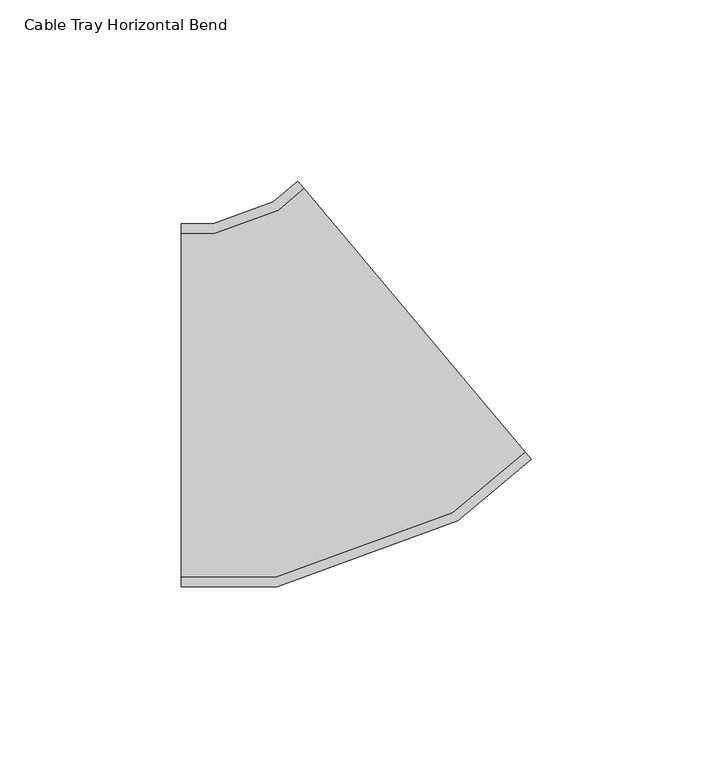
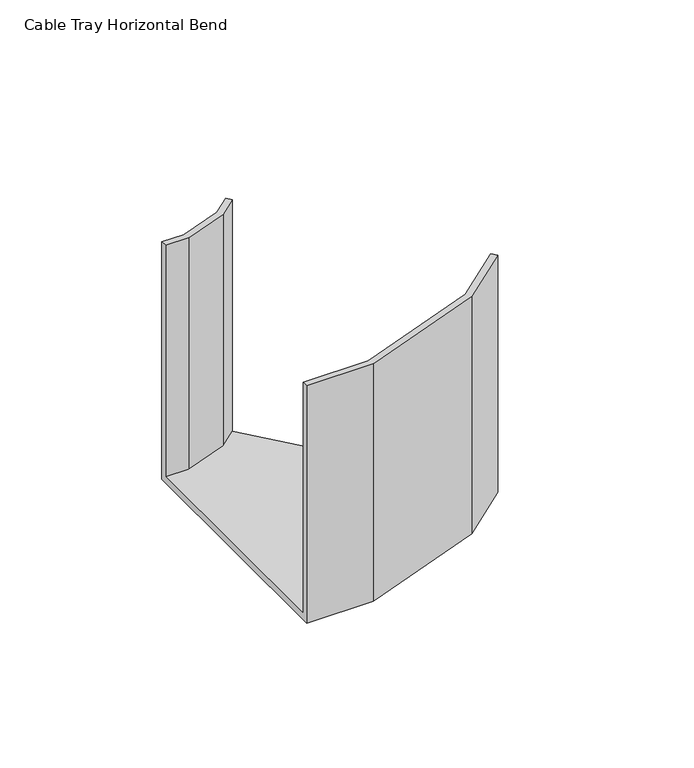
"""IFC4 building model written with IfcOpenShell, lengths in millimetres: cable carrier fitting geometry, Cable Tray Horizontal Bend : ELEC_ELV_TKG_N2402."""

from ifc_helpers import new_model, si_unit, origin, place, context, project, spatial, faceted_brep, source, transform, mapped, element, save


def cable_tray_horizontal_bend_6ea1dc5c(model_context):
    return source(origin(), model_context, "Body", "Brep", [
        faceted_brep([(-36.3970234, -50.0, -50.0), (-36.3970234, -50.0, 50.0), (-36.3970234, -47.46, 50.0), (-36.3970234, -47.46, -47.46), (-36.3970234, 47.46, -47.46), (-36.3970234, 47.46, 50.0), (-36.3970234, 50.0, 50.0), (-36.3970234, 50.0, -50.0), (60.021118, -14.9066665, -50.0), (-4.2576429, 61.6977778, -50.0), (-4.2576429, 61.6977778, 50.0), (-2.6249624, 59.752025, 50.0), (-2.6249624, 59.752025, -47.46), (58.3884375, -12.9609136, -47.46), (58.3884375, -12.9609136, 50.0), (60.021118, -14.9066665, 50.0), (-9.9479763, -50.0, -50.0), (-9.9479763, -50.0, 50.0), (39.7599725, -31.9077862, 50.0), (38.4703807, -29.6741477, 50.0), (-10.3958469, -47.46, 50.0), (-10.3958469, -47.46, -47.46), (38.4703807, -29.6741477, -47.46), (-9.7217663, 53.7970994, -47.46), (-27.1328039, 47.46, -47.46), (-27.1328039, 47.46, 50.0), (-9.7217663, 53.7970994, 50.0), (-11.0113581, 56.0307379, 50.0), (-27.5806744, 50.0, 50.0), (-27.5806744, 50.0, -50.0), (-11.0113581, 56.0307379, -50.0), (39.7599725, -31.9077862, -50.0)], [[[0, 1, 2, 3, 4, 5, 6, 7]], [[8, 9, 10, 11, 12, 13, 14, 15]], [[1, 0, 16, 17]], [[2, 1, 17, 18, 15, 14, 19, 20]], [[3, 2, 20, 21]], [[4, 3, 21, 22, 13, 12, 23, 24]], [[5, 4, 24, 25]], [[6, 5, 25, 26, 11, 10, 27, 28]], [[7, 6, 28, 29]], [[0, 7, 29, 30, 9, 8, 31, 16]], [[17, 16, 31, 18]], [[21, 20, 19, 22]], [[25, 24, 23, 26]], [[29, 28, 27, 30]], [[18, 31, 8, 15]], [[22, 19, 14, 13]], [[26, 23, 12, 11]], [[30, 27, 10, 9]]]),
    ])


if __name__ == "__main__":
    model = new_model("IFC4")
    model_context = context("Model", 3, world=origin())
    ifc_project = project(units=[si_unit("LENGTHUNIT", "METRE", prefix="MILLI")], contexts=[model_context])
    site = spatial("IfcSite", under=ifc_project)
    building = spatial("IfcBuilding", under=site)
    placement = place(None, origin())
    cable_tray_horizontal_bend_shape = cable_tray_horizontal_bend_6ea1dc5c(model_context)
    element("IfcCableCarrierFitting", 1, ObjectType="Cable Tray Horizontal Bend : ELEC_ELV_TKG_N2402", at=placement, inside=building, context=model_context, shape_type="MappedRepresentation", body=[
        mapped(cable_tray_horizontal_bend_shape, transform((0.0, 0.0, 0.0), x_axis=(1.0, 0.0, 0.0), y_axis=(0.0, 1.0, 0.0), z_axis=(0.0, 0.0, 1.0))),
    ])
    save(model, "model.ifc")
